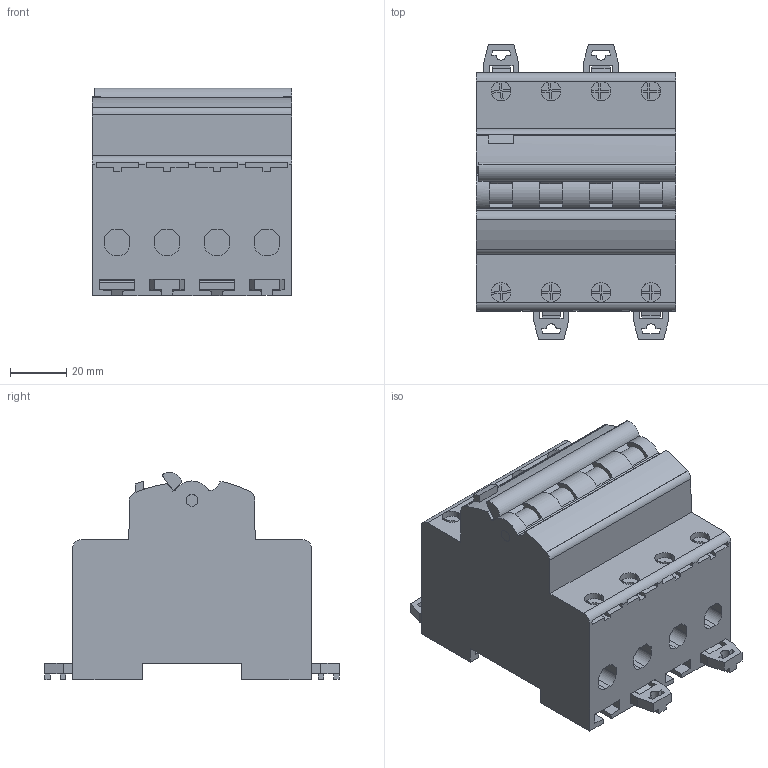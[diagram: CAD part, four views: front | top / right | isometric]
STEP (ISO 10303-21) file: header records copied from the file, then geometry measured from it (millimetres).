
FILE_DESCRIPTION((''),'2;1');
FILE_NAME('SB110953_3D-SIMPLIFIED_ASM','2014-03-31T',('mcordero'),(''),'PRO/ENGINEER BY PARAMETRIC TECHNOLOGY CORPORATION, 2006170','PRO/ENGINEER BY PARAMETRIC TECHNOLOGY CORPORATION, 2006170','');
FILE_SCHEMA(('AUTOMOTIVE_DESIGN { 1 0 10303 214 1 1 1 1 }'));
Length unit declared in the file: millimetre
Products named in the file (7): CORP; POIGNEE; PRT0001; CLIP; VIS; SB110953_3D-SIMPLIFIED-1_ASM; SB110953_3D-SIMPLIFIED_ASM
Assembly tree (19 placements, depth 3):
  SB110953_3D-SIMPLIFIED_ASM
    SB110953_3D-SIMPLIFIED-1_ASM
      CORP
      POIGNEE
      PRT0001  x4
      CLIP  x4
      VIS  x8
Bounding box: 71.2 x 105 x 74.08 mm (x, y, z)
Volume: 328589.8 mm3; surface area: 61005.8 mm2
Topology: 18 solids, 18 shells, 804 faces, 2204 edges, 1468 vertices
Faces by surface type: plane 676, cylinder 128
Entity records: 15949 total; most frequent: CARTESIAN_POINT 2797, ORIENTED_EDGE 2698, DIRECTION 2618, EDGE_CURVE 1349, VECTOR 1126, LINE 1126, VERTEX_POINT 899, AXIS2_PLACEMENT_3D 746
